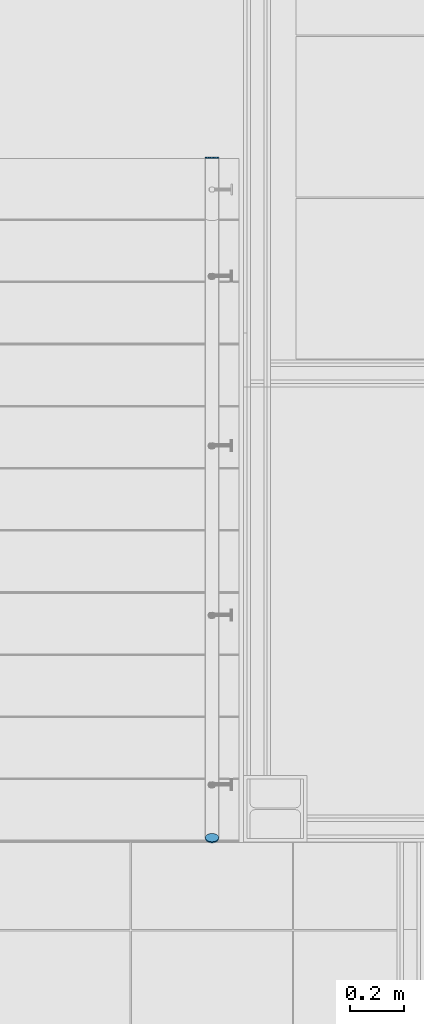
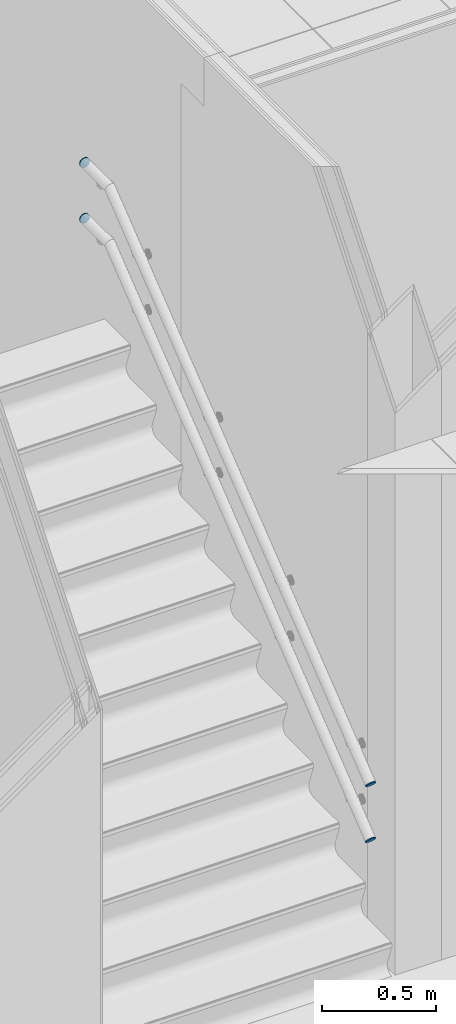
# One storey, part 4 of 338: 4 members, 2 elements without a shape of their own.
"""IFC2X3 building model written with IfcOpenShell, lengths in millimetres."""

from ifc_helpers import new_model, entity, si_unit, converted_unit, derived_unit, money_unit, direction, frame, origin_with_axes, place, context, subcontext, project, spatial, faceted_brep, source, transform, mapped, material, type_object, type_shapes, element, aggregate, save


model = new_model("IFC2X3")

# Units and contexts
model_context = context("Model", 3, precision=0.01, world=origin_with_axes(), true_north=direction((0.0, 1.0)))
plan_context = context("Plan", 3, precision=0.01, world=origin_with_axes(), true_north=direction((0.0, 1.0)))
body_context = subcontext(model_context, "Body", "Model", "MODEL_VIEW")
ifc_project = project(units=[si_unit("LENGTHUNIT", "METRE", prefix="MILLI"), si_unit("AREAUNIT", "SQUARE_METRE"), si_unit("VOLUMEUNIT", "CUBIC_METRE"), converted_unit("PLANEANGLEUNIT", "DEGREE", entity("IfcPlaneAngleMeasure", 0.0174532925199), si_unit("PLANEANGLEUNIT", "RADIAN"), dimensions=[0, 0, 0, 0, 0, 0, 0]), money_unit("EUR"), converted_unit("TIMEUNIT", "Year", entity("IfcTimeMeasure", 31556926.0), si_unit("TIMEUNIT", "SECOND"), dimensions=[0, 0, 1, 0, 0, 0, 0]), si_unit("MASSUNIT", "GRAM", prefix="KILO"), si_unit("THERMODYNAMICTEMPERATUREUNIT", "DEGREE_CELSIUS"), si_unit("LUMINOUSINTENSITYUNIT", "LUMEN"), si_unit("ENERGYUNIT", "JOULE", prefix="MEGA"), derived_unit("THERMALCONDUCTANCEUNIT", [(si_unit("POWERUNIT", "WATT"), 1), (si_unit("LENGTHUNIT", "METRE"), -1), (si_unit("THERMODYNAMICTEMPERATUREUNIT", "KELVIN"), -1)]), derived_unit("SPECIFICHEATCAPACITYUNIT", [(si_unit("ENERGYUNIT", "JOULE"), 1), (si_unit("MASSUNIT", "GRAM", prefix="KILO"), -1), (si_unit("THERMODYNAMICTEMPERATUREUNIT", "KELVIN"), -1)]), derived_unit("MASSDENSITYUNIT", [(si_unit("MASSUNIT", "GRAM", prefix="KILO"), 1), (si_unit("VOLUMEUNIT", "CUBIC_METRE"), -1)])], contexts=[model_context, plan_context])

# Site, building, storey
site_placement = place(None, origin_with_axes())
site = spatial("IfcSite", under=ifc_project, at=site_placement, Name="Fortuinstraat Woensdrecht", CompositionType="ELEMENT")
building_placement = place(site_placement, origin_with_axes())
building = spatial("IfcBuilding", under=site, at=building_placement, Name="IKC Fortuna", CompositionType="ELEMENT")
storey_placement = place(building_placement, origin_with_axes())
storey = spatial("IfcBuildingStorey", under=building, at=storey_placement, Name="00 begane grond", CompositionType="ELEMENT", Elevation=0.0)

# Railing, member
railing_type = type_object("IfcRailingType", Name="Railing Type", PredefinedType="NOTDEFINED")
railing_1_placement = place(storey_placement, frame((28891.8811335, 19719.7895441, 0.568181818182), z_axis=(0.0, 0.0, 1.0), x_axis=(0.642787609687, -0.766044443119, 0.0)))
railing_1 = element("IfcRailing", 1, at=railing_1_placement, inside=storey, type_object=railing_type, Name="_Reling_Reling-x", PredefinedType="NOTDEFINED")
ifc_material = material(Name="Hout AFW")
member_type = type_object("IfcMemberType", Name="IfcMember", PredefinedType="USERDEFINED")
shared_shape_1 = source(origin_with_axes(), body_context, "Body", "Brep", [
    faceted_brep([(-125.0, 0.0, 875.0), (-124.620193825, 0.0, 879.341204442), (-124.620193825, 4.99999999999, 879.341204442), (-125.0, 4.99999999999, 875.0), (-124.620193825, 0.0, 870.658795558), (-123.49231552, 0.0, 866.449496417), (-121.650635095, 0.0, 862.5), (-119.151111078, 0.0, 858.930309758), (-116.069690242, 0.0, 855.848888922), (-112.5, 0.0, 853.349364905), (-108.550503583, 0.0, 851.50768448), (-104.341204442, 0.0, 850.379806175), (-100.0, 0.0, 850.0), (-95.6587955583, 0.0, 850.379806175), (-91.4494964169, 0.0, 851.50768448), (-87.5, 0.0, 853.349364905), (-83.9303097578, 0.0, 855.848888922), (-80.848888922, 0.0, 858.930309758), (-78.3493649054, 0.0, 862.5), (-76.5076844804, 0.0, 866.449496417), (-75.3798061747, 0.0, 870.658795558), (-75.0, 0.0, 875.0), (-75.3798061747, 0.0, 879.341204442), (-76.5076844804, 0.0, 883.550503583), (-78.3493649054, 0.0, 887.5), (-80.848888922, 0.0, 891.069690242), (-83.9303097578, 0.0, 894.151111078), (-87.5, 0.0, 896.650635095), (-91.4494964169, 0.0, 898.49231552), (-95.6587955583, 0.0, 899.620193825), (-100.0, 0.0, 900.0), (-104.341204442, 0.0, 899.620193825), (-108.550503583, 0.0, 898.49231552), (-112.5, 0.0, 896.650635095), (-116.069690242, 0.0, 894.151111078), (-119.151111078, 0.0, 891.069690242), (-121.650635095, 0.0, 887.5), (-123.49231552, 0.0, 883.550503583), (-123.49231552, 4.99999999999, 883.550503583), (-121.650635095, 4.99999999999, 887.5), (-119.151111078, 5.0, 891.069690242), (-116.069690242, 5.0, 894.151111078), (-112.5, 5.0, 896.650635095), (-108.550503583, 5.0, 898.49231552), (-104.341204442, 5.0, 899.620193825), (-100.0, 5.0, 900.0), (-95.6587955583, 5.0, 899.620193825), (-91.4494964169, 5.0, 898.49231552), (-87.5, 5.0, 896.650635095), (-83.9303097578, 5.0, 894.151111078), (-80.848888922, 5.0, 891.069690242), (-78.3493649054, 5.0, 887.5), (-76.5076844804, 5.0, 883.550503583), (-75.3798061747, 5.0, 879.341204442), (-75.0, 5.0, 875.0), (-75.3798061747, 5.0, 870.658795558), (-76.5076844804, 5.0, 866.449496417), (-78.3493649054, 5.0, 862.5), (-80.848888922, 5.0, 858.930309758), (-83.9303097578, 5.0, 855.848888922), (-87.5, 5.0, 853.349364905), (-91.4494964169, 5.0, 851.50768448), (-95.6587955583, 5.0, 850.379806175), (-100.0, 5.0, 850.0), (-104.341204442, 5.0, 850.379806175), (-108.550503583, 5.0, 851.50768448), (-112.5, 5.0, 853.349364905), (-116.069690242, 5.0, 855.848888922), (-119.151111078, 5.0, 858.930309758), (-121.650635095, 4.99999999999, 862.5), (-123.49231552, 4.99999999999, 866.449496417), (-124.620193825, 4.99999999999, 870.658795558)], [[[0, 1, 2, 3]], [[0, 4, 5, 6, 7, 8, 9, 10, 11, 12, 13, 14, 15, 16, 17, 18, 19, 20, 21, 22, 23, 24, 25, 26, 27, 28, 29, 30, 31, 32, 33, 34, 35, 36, 37, 1]], [[1, 37, 38, 2]], [[3, 2, 38, 39, 40, 41, 42, 43, 44, 45, 46, 47, 48, 49, 50, 51, 52, 53, 54, 55, 56, 57, 58, 59, 60, 61, 62, 63, 64, 65, 66, 67, 68, 69, 70, 71]], [[4, 0, 3, 71]], [[5, 4, 71, 70]], [[6, 5, 70, 69]], [[7, 6, 69, 68]], [[8, 7, 68, 67]], [[9, 8, 67, 66]], [[10, 9, 66, 65]], [[11, 10, 65, 64]], [[12, 11, 64, 63]], [[13, 12, 63, 62]], [[14, 13, 62, 61]], [[15, 14, 61, 60]], [[16, 15, 60, 59]], [[17, 16, 59, 58]], [[18, 17, 58, 57]], [[19, 18, 57, 56]], [[20, 19, 56, 55]], [[21, 20, 55, 54]], [[22, 21, 54, 53]], [[23, 22, 53, 52]], [[24, 23, 52, 51]], [[25, 24, 51, 50]], [[26, 25, 50, 49]], [[27, 26, 49, 48]], [[28, 27, 48, 47]], [[29, 28, 47, 46]], [[30, 29, 46, 45]], [[31, 30, 45, 44]], [[32, 31, 44, 43]], [[33, 32, 43, 42]], [[34, 33, 42, 41]], [[35, 34, 41, 40]], [[36, 35, 40, 39]], [[37, 36, 39, 38]]]),
])
member_1_placement = place(railing_1_placement, frame((0.0, 0.0, 0.0), z_axis=(0.0, 0.0, 1.0), x_axis=(0.642787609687, 0.766044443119, 0.0)))
member_1 = element("IfcMember", 2, at=member_1_placement, type_object=member_type, material=ifc_material, Name="_Reling - regel_", context=body_context, shape_type="MappedRepresentation", body=[
    mapped(shared_shape_1, transform((-56.9461569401, 2610.00708418, 1999.43181818))),
])

railing_2_placement = place(storey_placement, frame((28891.8811335, 19719.7895441, -299.431818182), z_axis=(0.0, 0.0, 1.0), x_axis=(0.642787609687, -0.766044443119, 0.0)))
railing_2 = element("IfcRailing", 3, at=railing_2_placement, inside=storey, type_object=railing_type, Name="_Reling_Reling-x", PredefinedType="NOTDEFINED")
member_2_placement = place(railing_2_placement, frame((0.0, 0.0, 0.0), z_axis=(0.0, 0.0, 1.0), x_axis=(0.642787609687, 0.766044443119, 0.0)))
member_2 = element("IfcMember", 4, at=member_2_placement, type_object=member_type, material=ifc_material, Name="_Reling - regel_", context=body_context, shape_type="MappedRepresentation", body=[
    mapped(shared_shape_1, transform((-56.9461569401, 2610.00708418, 1999.43181818))),
])

# Member
shared_shape_2 = source(origin_with_axes(), body_context, "Body", "Brep", [
    faceted_brep([(-75.0, 15.5036710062, 880.387856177), (-75.3798061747, 12.8114867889, 883.793469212), (-75.3798061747, 8.88905802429, 880.692735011), (-75.0, 11.5812422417, 877.287121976), (-75.3798061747, 18.1958552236, 876.982243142), (-76.5076844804, 20.8062387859, 873.680107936), (-78.3493649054, 23.2555065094, 870.581784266), (-80.848888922, 25.4692386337, 867.781413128), (-83.9303097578, 27.3801720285, 865.364082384), (-87.5, 28.9302439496, 863.403241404), (-91.4494964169, 30.0723562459, 861.958469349), (-95.6587955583, 30.7718064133, 861.073664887), (-100.0, 31.0073420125, 860.775712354), (-104.341204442, 30.7718064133, 861.073664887), (-108.550503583, 30.0723562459, 861.958469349), (-112.5, 28.9302439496, 863.403241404), (-116.069690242, 27.3801720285, 865.364082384), (-119.151111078, 25.4692386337, 867.781413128), (-121.650635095, 23.2555065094, 870.581784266), (-123.49231552, 20.8062387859, 873.680107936), (-124.620193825, 18.1958552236, 876.982243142), (-125.0, 15.5036710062, 880.387856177), (-124.620193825, 12.8114867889, 883.793469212), (-123.49231552, 10.2011032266, 887.095604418), (-121.650635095, 7.75183550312, 890.193928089), (-119.151111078, 5.53810337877, 892.994299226), (-116.069690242, 3.62716998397, 895.41162997), (-112.5, 2.07709806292, 897.37247095), (-108.550503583, 0.934985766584, 898.817243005), (-104.341204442, 0.235535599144, 899.702047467), (-100.0, 0.0, 900.0), (-95.6587955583, 0.235535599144, 899.702047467), (-91.4494964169, 0.934985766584, 898.817243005), (-87.5, 2.07709806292, 897.37247095), (-83.9303097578, 3.62716998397, 895.41162997), (-80.848888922, 5.53810337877, 892.994299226), (-78.3493649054, 7.75183550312, 890.193928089), (-76.5076844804, 10.2011032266, 887.095604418), (-76.5076844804, 6.27867446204, 883.994870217), (-78.3493649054, 3.82940673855, 887.093193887), (-80.848888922, 1.6156746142, 889.893565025), (-83.9303097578, -0.295258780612, 892.310895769), (-87.5, -1.84533070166, 894.271736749), (-91.4494964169, -2.98744299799, 895.716508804), (-95.6587955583, -3.68689316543, 896.601313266), (-100.0, -3.92242876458, 896.899265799), (-104.341204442, -3.68689316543, 896.601313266), (-108.550503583, -2.98744299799, 895.716508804), (-112.5, -1.84533070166, 894.271736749), (-116.069690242, -0.295258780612, 892.310895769), (-119.151111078, 1.6156746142, 889.893565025), (-121.650635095, 3.82940673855, 887.093193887), (-123.49231552, 6.27867446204, 883.994870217), (-124.620193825, 8.88905802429, 880.692735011), (-125.0, 11.5812422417, 877.287121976), (-124.620193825, 14.2734264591, 873.881508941), (-123.49231552, 16.8838100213, 870.579373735), (-121.650635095, 19.3330777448, 867.481050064), (-119.151111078, 21.5468098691, 864.680678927), (-116.069690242, 23.457743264, 862.263348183), (-112.5, 25.007815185, 860.302507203), (-108.550503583, 26.1499274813, 858.857735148), (-104.341204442, 26.8493776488, 857.972930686), (-100.0, 27.0849132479, 857.674978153), (-95.6587955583, 26.8493776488, 857.972930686), (-91.4494964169, 26.1499274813, 858.857735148), (-87.5, 25.007815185, 860.302507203), (-83.9303097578, 23.457743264, 862.263348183), (-80.848888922, 21.5468098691, 864.680678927), (-78.3493649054, 19.3330777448, 867.481050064), (-76.5076844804, 16.8838100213, 870.579373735), (-75.3798061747, 14.2734264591, 873.881508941)], [[[0, 1, 2, 3]], [[0, 4, 5, 6, 7, 8, 9, 10, 11, 12, 13, 14, 15, 16, 17, 18, 19, 20, 21, 22, 23, 24, 25, 26, 27, 28, 29, 30, 31, 32, 33, 34, 35, 36, 37, 1]], [[1, 37, 38, 2]], [[3, 2, 38, 39, 40, 41, 42, 43, 44, 45, 46, 47, 48, 49, 50, 51, 52, 53, 54, 55, 56, 57, 58, 59, 60, 61, 62, 63, 64, 65, 66, 67, 68, 69, 70, 71]], [[4, 0, 3, 71]], [[5, 4, 71, 70]], [[6, 5, 70, 69]], [[7, 6, 69, 68]], [[8, 7, 68, 67]], [[9, 8, 67, 66]], [[10, 9, 66, 65]], [[11, 10, 65, 64]], [[12, 11, 64, 63]], [[13, 12, 63, 62]], [[14, 13, 62, 61]], [[15, 14, 61, 60]], [[16, 15, 60, 59]], [[17, 16, 59, 58]], [[18, 17, 58, 57]], [[19, 18, 57, 56]], [[20, 19, 56, 55]], [[21, 20, 55, 54]], [[22, 21, 54, 53]], [[23, 22, 53, 52]], [[24, 23, 52, 51]], [[25, 24, 51, 50]], [[26, 25, 50, 49]], [[27, 26, 49, 48]], [[28, 27, 48, 47]], [[29, 28, 47, 46]], [[30, 29, 46, 45]], [[31, 30, 45, 44]], [[32, 31, 44, 43]], [[33, 32, 43, 42]], [[34, 33, 42, 41]], [[35, 34, 41, 40]], [[36, 35, 40, 39]], [[37, 36, 39, 38]]]),
])
type_shapes(member_type, [shared_shape_1, shared_shape_2])
member_3_placement = place(railing_1_placement, frame((0.0, 0.0, 0.0), z_axis=(0.0, 0.0, 1.0), x_axis=(0.642787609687, 0.766044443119, 0.0)))
member_3 = element("IfcMember", 5, at=member_3_placement, type_object=member_type, material=ifc_material, Name="_Reling - regel_", context=body_context, shape_type="MappedRepresentation", body=[
    mapped(shared_shape_2, transform((-56.9461569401, 80.0070841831, 181.25))),
])

aggregate(railing_1, [member_3, member_1])

member_4_placement = place(railing_2_placement, frame((0.0, 0.0, 0.0), z_axis=(0.0, 0.0, 1.0), x_axis=(0.642787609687, 0.766044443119, 0.0)))
member_4 = element("IfcMember", 6, at=member_4_placement, type_object=member_type, material=ifc_material, Name="_Reling - regel_", context=body_context, shape_type="MappedRepresentation", body=[
    mapped(shared_shape_2, transform((-56.9461569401, 80.0070841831, 181.25))),
])

aggregate(railing_2, [member_4, member_2])

save(model, "model.ifc")
